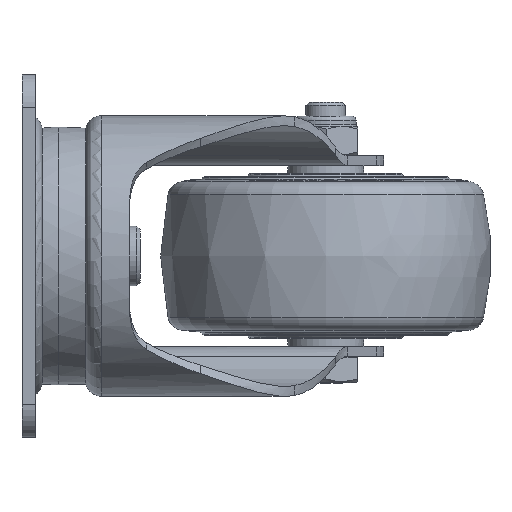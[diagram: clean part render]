
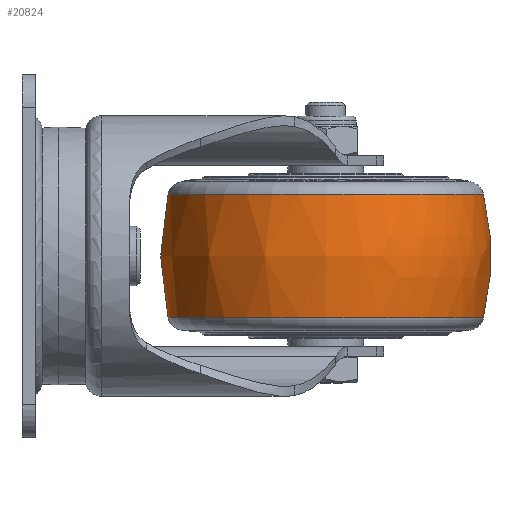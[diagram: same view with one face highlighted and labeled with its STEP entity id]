
A CAD part, left-side view. The second image highlights one B-rep face of the part: STEP entity #20824.
In plain terms, the highlighted free-form (B-spline) face has degree [2, 2] with [3, 9] control points.
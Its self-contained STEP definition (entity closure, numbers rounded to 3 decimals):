
#27=(
BOUNDED_SURFACE()
B_SPLINE_SURFACE(2,2,((#33716,#33717,#33718,#33719,#33720,#33721,#33722,
#33723,#33724),(#33725,#33726,#33727,#33728,#33729,#33730,#33731,#33732,
#33733),(#33734,#33735,#33736,#33737,#33738,#33739,#33740,#33741,#33742)),
 .UNSPECIFIED.,.F.,.T.,.F.)
B_SPLINE_SURFACE_WITH_KNOTS((3,3),(3,2,2,2,3),(-0.236,0.236),
(-3.142,-1.571,0.,1.571,3.142),
 .UNSPECIFIED.)
GEOMETRIC_REPRESENTATION_ITEM()
RATIONAL_B_SPLINE_SURFACE(((1.,0.707,1.,0.707,1.,
0.707,1.,0.707,1.),(0.972,0.687,
0.972,0.687,0.972,0.687,
0.972,0.687,0.972),(1.,0.707,
1.,0.707,1.,0.707,1.,0.707,1.)))
REPRESENTATION_ITEM('')
SURFACE()
);
#4874=FACE_OUTER_BOUND('',#6124,.T.);
#6124=EDGE_LOOP('',(#15444,#15445,#15446,#15447));
#7122=CIRCLE('',#22000,47.779);
#7124=CIRCLE('',#22002,47.779);
#7125=CIRCLE('',#22003,80.);
#8920=VERTEX_POINT('',#33713);
#8921=VERTEX_POINT('',#33743);
#11338=EDGE_CURVE('',#8920,#8920,#7122,.T.);
#11340=EDGE_CURVE('',#8921,#8921,#7124,.T.);
#11341=EDGE_CURVE('',#8921,#8920,#7125,.T.);
#15444=ORIENTED_EDGE('',*,*,#11340,.F.);
#15445=ORIENTED_EDGE('',*,*,#11341,.T.);
#15446=ORIENTED_EDGE('',*,*,#11338,.T.);
#15447=ORIENTED_EDGE('',*,*,#11341,.F.);
#20824=ADVANCED_FACE('',(#4874),#27,.F.);
#22000=AXIS2_PLACEMENT_3D('',#33714,#23784,#23785);
#22002=AXIS2_PLACEMENT_3D('',#33744,#23788,#23789);
#22003=AXIS2_PLACEMENT_3D('',#33745,#23790,#23791);
#23784=DIRECTION('center_axis',(0.,0.,
1.));
#23785=DIRECTION('ref_axis',(0.,1.,0.));
#23788=DIRECTION('center_axis',(0.,0.,
1.));
#23789=DIRECTION('ref_axis',(0.,1.,0.));
#23790=DIRECTION('center_axis',(1.,0.,0.));
#23791=DIRECTION('ref_axis',(0.,-1.,0.));
#33713=CARTESIAN_POINT('',(57.5,-139.78,-18.721));
#33714=CARTESIAN_POINT('Origin',(57.5,-92.001,-18.721));
#33716=CARTESIAN_POINT('Ctrl Pts',(57.5,-139.78,-18.721));
#33717=CARTESIAN_POINT('Ctrl Pts',(105.279,-139.78,-18.721));
#33718=CARTESIAN_POINT('Ctrl Pts',(105.279,-92.001,-18.721));
#33719=CARTESIAN_POINT('Ctrl Pts',(105.279,-44.223,-18.721));
#33720=CARTESIAN_POINT('Ctrl Pts',(57.5,-44.223,-18.721));
#33721=CARTESIAN_POINT('Ctrl Pts',(9.721,-44.223,-18.721));
#33722=CARTESIAN_POINT('Ctrl Pts',(9.721,-92.001,-18.721));
#33723=CARTESIAN_POINT('Ctrl Pts',(9.721,-139.78,-18.721));
#33724=CARTESIAN_POINT('Ctrl Pts',(57.5,-139.78,-18.721));
#33725=CARTESIAN_POINT('Ctrl Pts',(57.5,-144.286,0.));
#33726=CARTESIAN_POINT('Ctrl Pts',(109.785,-144.286,0.));
#33727=CARTESIAN_POINT('Ctrl Pts',(109.785,-92.001,0.));
#33728=CARTESIAN_POINT('Ctrl Pts',(109.785,-39.717,0.));
#33729=CARTESIAN_POINT('Ctrl Pts',(57.5,-39.717,0.));
#33730=CARTESIAN_POINT('Ctrl Pts',(5.215,-39.717,0.));
#33731=CARTESIAN_POINT('Ctrl Pts',(5.215,-92.001,0.));
#33732=CARTESIAN_POINT('Ctrl Pts',(5.215,-144.286,0.));
#33733=CARTESIAN_POINT('Ctrl Pts',(57.5,-144.286,0.));
#33734=CARTESIAN_POINT('Ctrl Pts',(57.5,-139.78,18.721));
#33735=CARTESIAN_POINT('Ctrl Pts',(105.279,-139.78,18.721));
#33736=CARTESIAN_POINT('Ctrl Pts',(105.279,-92.001,18.721));
#33737=CARTESIAN_POINT('Ctrl Pts',(105.279,-44.223,18.721));
#33738=CARTESIAN_POINT('Ctrl Pts',(57.5,-44.223,18.721));
#33739=CARTESIAN_POINT('Ctrl Pts',(9.721,-44.223,18.721));
#33740=CARTESIAN_POINT('Ctrl Pts',(9.721,-92.001,18.721));
#33741=CARTESIAN_POINT('Ctrl Pts',(9.721,-139.78,18.721));
#33742=CARTESIAN_POINT('Ctrl Pts',(57.5,-139.78,18.721));
#33743=CARTESIAN_POINT('',(57.5,-139.78,18.721));
#33744=CARTESIAN_POINT('Origin',(57.5,-92.001,18.721));
#33745=CARTESIAN_POINT('Origin',(57.5,-62.001,0.));
